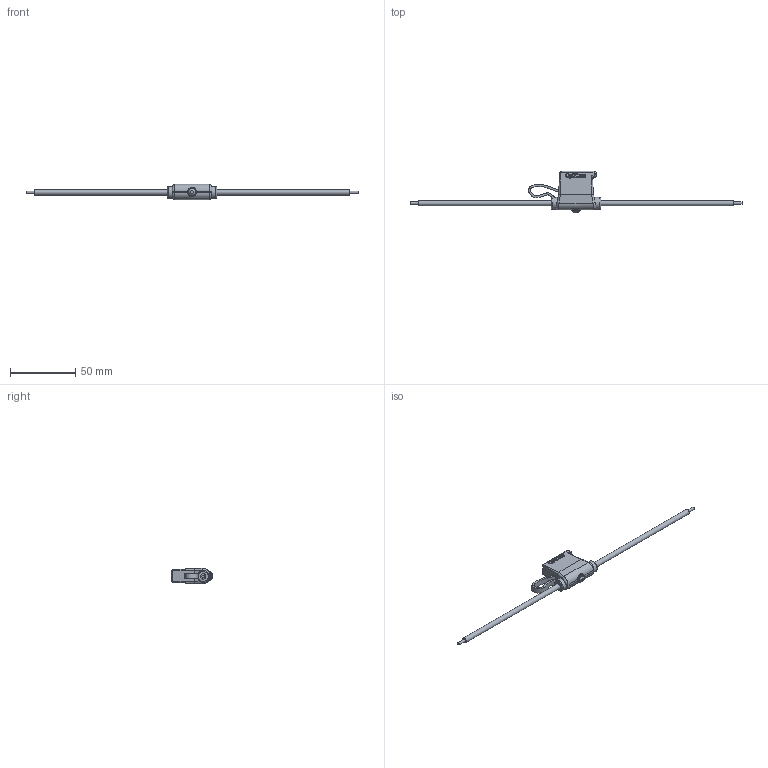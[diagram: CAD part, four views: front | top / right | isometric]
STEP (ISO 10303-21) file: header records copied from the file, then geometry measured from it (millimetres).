
FILE_DESCRIPTION(/* description */ (''),/* implementation_level */ '2;1');
FILE_NAME(/* name */ 'C:\Users\Hani\Desktop\work\LPM-04-I\LPM-04-I.stp',/* time_stamp */ '2021-07-18T12:05:36-07:00',/* author */ ('Hani'),/* organization */ (''),/* preprocessor_version */ 'ST-DEVELOPER v17',/* originating_system */ 'Autodesk Inventor 2019',/* authorisation */ '');
FILE_SCHEMA (('AUTOMOTIVE_DESIGN { 1 0 10303 214 3 1 1 }'));
Length unit declared in the file: inch
Products named in the file (4): LPT-04-I; holder_fuse-I; terminals_MIR1; terminals_MIR_MIR
Assembly tree (3 placements, depth 2):
  LPT-04-I
    holder_fuse-I
    terminals_MIR1
    terminals_MIR_MIR
Bounding box: 253.49 x 31.78 x 11.68 mm (x, y, z)
Volume: 8918.9 mm3; surface area: 7920.4 mm2
Topology: 4 solids, 4 shells, 298 faces, 774 edges, 499 vertices
Faces by surface type: plane 138, bspline 90, cylinder 63, torus 7
Full cylindrical faces by diameter (mm): 1.905 x2, 4.064 x2, 4.801 x1, 9.068 x2
Entity records: 10734 total; most frequent: CARTESIAN_POINT 3726, ORIENTED_EDGE 1540, DIRECTION 1178, EDGE_CURVE 770, VERTEX_POINT 499, LINE 434, VECTOR 434, AXIS2_PLACEMENT_3D 372
